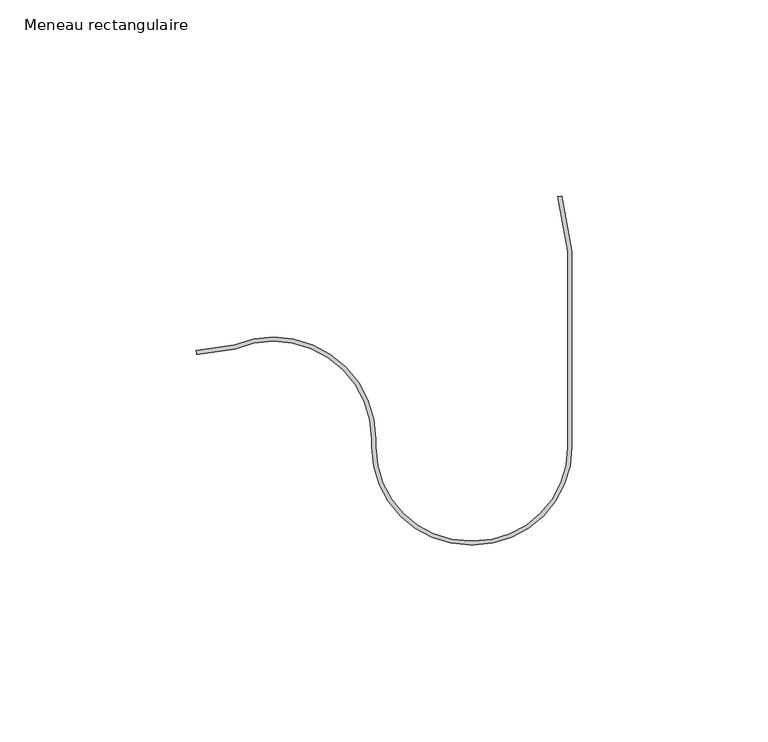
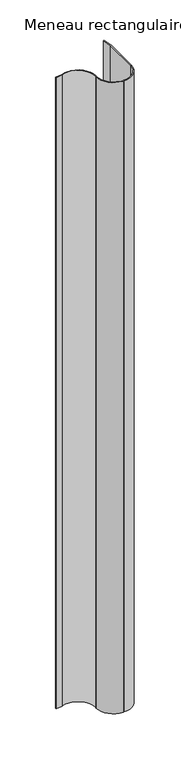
"""IFC4 building model written with IfcOpenShell, lengths in millimetres: member geometry, Meneau rectangulaire : Jonction contre mur Droite V."""

from ifc_helpers import new_model, si_unit, point, frame, frame_2d, origin, place, context, project, spatial, polyline, circle_curve, trimmed, segment, composite_curve, outline, extrude, source, transform, mapped, element, save


def meneau_rectangulaire_d3c7e20c(model_context):
    return source(origin(), model_context, "Body", "SweptSolid", [
        extrude(outline(composite_curve([segment(polyline([(-1.0, 26.3569132), (-3.6043568, 40.2231847), (-2.6384309, 40.4046045), (0.0, 26.3569132), (0.0, -23.6430868)]), True, "CONTINUOUS"), segment(trimmed(circle_curve(frame_2d((-25.0, -23.6430868)), 25.0), [point((0.0, -23.6430868))], [point((-25.0, -48.6430868))], False, "CARTESIAN"), True, "CONTINUOUS"), segment(polyline([(-25.0, -48.6430868), (-26.0, -48.6430868)]), True, "CONTINUOUS"), segment(trimmed(circle_curve(frame_2d((-26.0, -23.6430868)), 25.0), [point((-26.0, -48.6430868))], [point((-51.0, -23.6430868))], False, "CARTESIAN"), True, "CONTINUOUS"), segment(polyline([(-51.0, -23.6430868), (-51.0, -21.6218737)]), True, "CONTINUOUS"), segment(trimmed(circle_curve(frame_2d((-76.0, -21.6218737)), 25.0), [point((-51.0, -21.6218737))], [point((-85.7659612, 1.391731))], True, "CARTESIAN"), True, "CONTINUOUS"), segment(polyline([(-85.7659612, 1.391731), (-95.6686418, 0.0), (-95.8078149, 0.9902681), (-86.0341553, 2.3638663)]), True, "CONTINUOUS"), segment(trimmed(circle_curve(frame_2d((-76.0, -21.6218737)), 26.0), [point((-86.0341553, 2.3638663))], [point((-50.0, -21.6218737))], False, "CARTESIAN"), True, "CONTINUOUS"), segment(polyline([(-50.0, -21.6218737), (-50.0, -23.6430868)]), True, "CONTINUOUS"), segment(trimmed(circle_curve(frame_2d((-26.0, -23.6430868)), 24.0), [point((-50.0, -23.6430868))], [point((-26.0, -47.6430868))], True, "CARTESIAN"), True, "CONTINUOUS"), segment(polyline([(-26.0, -47.6430868), (-25.0, -47.6430868)]), True, "CONTINUOUS"), segment(trimmed(circle_curve(frame_2d((-25.0, -23.6430868)), 24.0), [point((-25.0, -47.6430868))], [point((-1.0, -23.6430868))], True, "CARTESIAN"), True, "CONTINUOUS"), segment(polyline([(-1.0, -23.6430868), (-1.0, 26.3569132)]), True, "CONTINUOUS")], self_intersect=False)), frame((0.0, 0.0, -966.6666667), z_axis=(0.0, 0.0, 1.0), x_axis=(1.0, 0.0, 0.0)), (0.0, 0.0, 1.0), 966.6666667),
    ])


if __name__ == "__main__":
    model = new_model("IFC4")
    model_context = context("Model", 3, world=origin())
    ifc_project = project(units=[si_unit("LENGTHUNIT", "METRE", prefix="MILLI")], contexts=[model_context])
    site = spatial("IfcSite", under=ifc_project)
    building = spatial("IfcBuilding", under=site)
    placement = place(None, origin())
    meneau_rectangulaire_shape = meneau_rectangulaire_d3c7e20c(model_context)
    element("IfcMember", 1, ObjectType="Meneau rectangulaire : Jonction contre mur Droite V", at=placement, inside=building, context=model_context, shape_type="MappedRepresentation", body=[
        mapped(meneau_rectangulaire_shape, transform((0.0, 0.0, 0.0), x_axis=(1.0, 0.0, 0.0), y_axis=(0.0, 1.0, 0.0), z_axis=(0.0, 0.0, 1.0))),
    ])
    save(model, "model.ifc")
